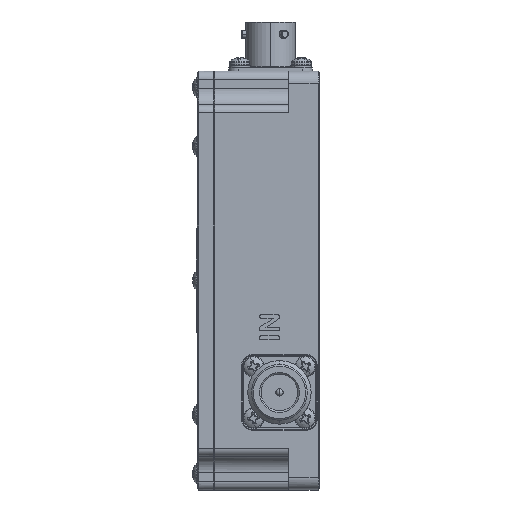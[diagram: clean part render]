
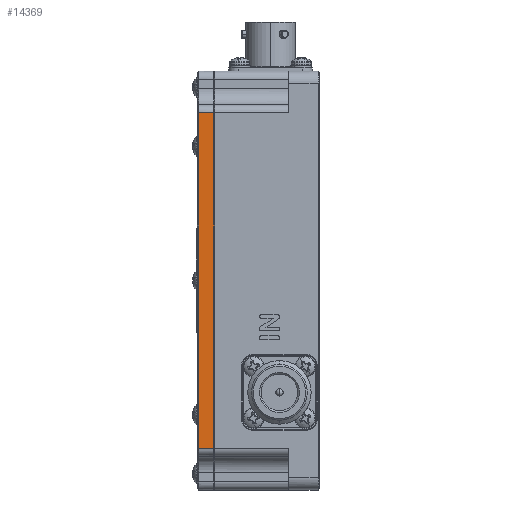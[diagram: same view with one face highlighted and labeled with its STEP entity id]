
A CAD part, left-side view. The second image highlights one B-rep face of the part: STEP entity #14369.
In plain terms, the highlighted planar face has unit normal (-1, 0, 0).
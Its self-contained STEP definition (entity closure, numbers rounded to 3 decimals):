
#1126 = CARTESIAN_POINT ( 'NONE',  ( 59.68, 86.618, 49.036 ) ) ;
#2256 = CARTESIAN_POINT ( 'NONE',  ( 59.68, 89.085, 49.036 ) ) ;
#2964 = VERTEX_POINT ( 'NONE', #31607 ) ;
#3243 = PLANE ( 'NONE',  #23447 ) ;
#3939 = CARTESIAN_POINT ( 'NONE',  ( 59.68, 85.385, -33.364 ) ) ;
#7557 = CARTESIAN_POINT ( 'NONE',  ( 59.68, 85.385, -33.364 ) ) ;
#7903 = VERTEX_POINT ( 'NONE', #3939 ) ;
#8907 = VECTOR ( 'NONE', #12272, 1000. ) ;
#9151 = CARTESIAN_POINT ( 'NONE',  ( 59.68, 85.385, -33.364 ) ) ;
#10194 = EDGE_CURVE ( 'NONE', #10204, #19401, #40105, .T. ) ;
#10204 = VERTEX_POINT ( 'NONE', #38969 ) ;
#11152 = CARTESIAN_POINT ( 'NONE',  ( 59.68, 85.385, 49.036 ) ) ;
#12272 = DIRECTION ( 'NONE',  ( 0., 0., 1. ) ) ;
#14369 = ADVANCED_FACE ( 'NONE', ( #16171 ), #3243, .F. ) ;
#15235 = B_SPLINE_CURVE_WITH_KNOTS ( 'NONE', 1,
 ( #38057, #7557 ),
 .UNSPECIFIED., .F., .F.,
 ( 2, 2 ),
 ( 0., 0.082 ),
 .UNSPECIFIED. ) ;
#16171 = FACE_OUTER_BOUND ( 'NONE', #42511, .T. ) ;
#17818 = CARTESIAN_POINT ( 'NONE',  ( 59.68, 87.851, 49.036 ) ) ;
#18256 = CARTESIAN_POINT ( 'NONE',  ( 59.68, 89.085, 49.036 ) ) ;
#18731 = LINE ( 'NONE', #2256, #8907 ) ;
#19401 = VERTEX_POINT ( 'NONE', #22708 ) ;
#19841 = EDGE_CURVE ( 'NONE', #10204, #7903, #15235, .T. ) ;
#20427 = EDGE_CURVE ( 'NONE', #7903, #2964, #37020, .T. ) ;
#22708 = CARTESIAN_POINT ( 'NONE',  ( 59.68, 89.085, 49.036 ) ) ;
#23447 = AXIS2_PLACEMENT_3D ( 'NONE', #36653, #26435, #33536 ) ;
#26194 = ORIENTED_EDGE ( 'NONE', *, *, #10194, .T. ) ;
#26311 = CARTESIAN_POINT ( 'NONE',  ( 59.68, 89.085, -33.364 ) ) ;
#26435 = DIRECTION ( 'NONE',  ( 1., 0., 0. ) ) ;
#31038 = EDGE_CURVE ( 'NONE', #2964, #19401, #18731, .T. ) ;
#31607 = CARTESIAN_POINT ( 'NONE',  ( 59.68, 89.085, -33.364 ) ) ;
#32173 = ORIENTED_EDGE ( 'NONE', *, *, #19841, .F. ) ;
#33536 = DIRECTION ( 'NONE',  ( 0., 0., -1. ) ) ;
#34672 = ORIENTED_EDGE ( 'NONE', *, *, #20427, .F. ) ;
#36653 = CARTESIAN_POINT ( 'NONE',  ( 59.68, 85.385, 49.036 ) ) ;
#37020 = B_SPLINE_CURVE_WITH_KNOTS ( 'NONE', 1,
 ( #9151, #26311 ),
 .UNSPECIFIED., .F., .F.,
 ( 2, 2 ),
 ( -1., 0. ),
 .UNSPECIFIED. ) ;
#38057 = CARTESIAN_POINT ( 'NONE',  ( 59.68, 85.385, 49.036 ) ) ;
#38969 = CARTESIAN_POINT ( 'NONE',  ( 59.68, 85.385, 49.036 ) ) ;
#40018 = ORIENTED_EDGE ( 'NONE', *, *, #31038, .F. ) ;
#40105 = B_SPLINE_CURVE_WITH_KNOTS ( 'NONE', 3,
 ( #11152, #1126, #17818, #18256 ),
 .UNSPECIFIED., .F., .F.,
 ( 4, 4 ),
 ( 0., 1. ),
 .UNSPECIFIED. ) ;
#42511 = EDGE_LOOP ( 'NONE', ( #40018, #34672, #32173, #26194 ) ) ;
